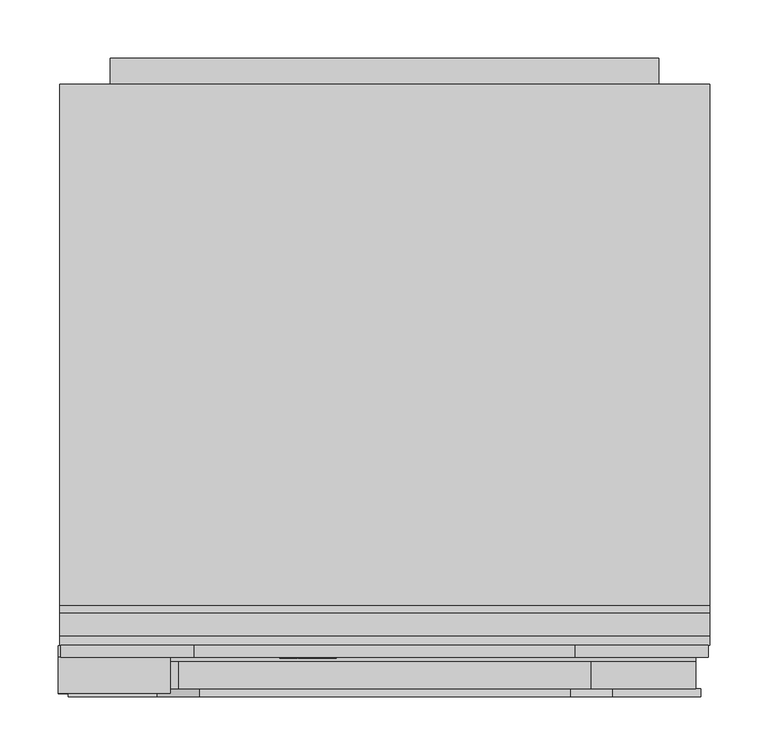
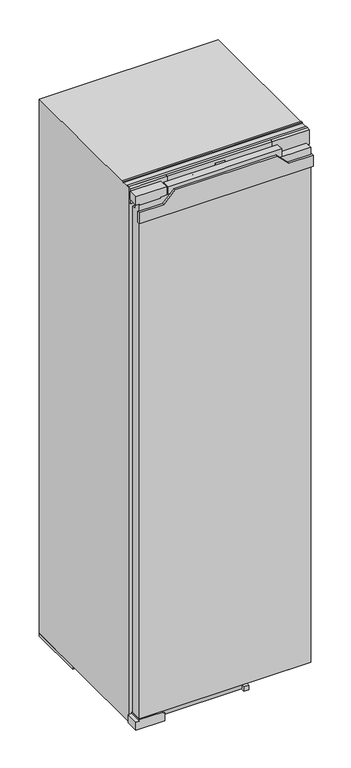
"""IFC4 building model written with IfcOpenShell, lengths in millimetres: proxy geometry, 13000760_CH_K7748C_LI : 36774808_CH_13000760_K7748C_LI."""

from ifc_helpers import new_model, si_unit, point, frame, frame_2d, origin, origin_with_axes, place, context, project, spatial, polyline, circle_curve, ellipse_curve, trimmed, segment, composite_curve, outline, extrude, faceted_brep, source, transform, mapped, element, save
from ifc_brep_helpers import plane_surface, cylinder_surface, revolved_surface, extruded_surface, advanced_brep


def specialty_equipment_6c33d652(model_context):
    return source(origin(), model_context, "Body", "SolidModel", [
        extrude(outline(polyline([(1762.0, -279.5), (1735.0, -279.5), (1735.0, -269.5), (1732.0, -269.5), (1732.0, -203.5), (1735.0, -203.5), (1735.0, -183.5), (1762.0, -183.5), (1762.0, -279.5)])), frame((0.0, 3.0, 0.0), z_axis=(0.0, 1.0, 0.0), x_axis=(0.0, 0.0, 1.0)), (0.0, 0.0, 1.0), 31.0),
        extrude(outline(polyline([(38.0, -195.5), (38.0, -268.5), (34.0, -268.5), (34.0, -279.5), (7.0, -279.5), (7.0, -189.5), (34.0, -189.5), (34.0, -195.5), (38.0, -195.5)])), frame((0.0, 3.0, 0.0), z_axis=(0.0, 1.0, 0.0), x_axis=(0.0, 0.0, 1.0)), (0.0, 0.0, 1.0), 41.0),
        extrude(outline(polyline([(7.0, 38.0), (7.0, 1732.0), (30.0, 1732.0), (30.0, 1703.0), (44.0, 1703.0), (44.0, 38.0), (7.0, 38.0)])), frame((-266.5, 0.0, 0.0), z_axis=(1.0, 0.0, 0.0), x_axis=(0.0, 1.0, 0.0)), (0.0, 0.0, 1.0), 533.0),
        extrude(outline(polyline([(176.5, 7.0), (-176.5, 7.0), (-176.5, 30.0), (176.5, 30.0), (176.5, 7.0)])), frame((0.0, 0.0, 1732.0), z_axis=(0.0, 0.0, 1.0), x_axis=(1.0, 0.0, 0.0)), (0.0, 0.0, 1.0), 26.0),
        extrude(outline(polyline([(1673.0, 271.0), (1709.0, 271.0), (1709.0, 195.0), (1745.0, 159.0), (1745.0, -159.0), (1709.0, -195.0), (1709.0, -271.0), (1673.0, -271.0), (1673.0, 271.0)])), frame((0.0, 0.0, 0.0), z_axis=(0.0, 1.0, 0.0), x_axis=(0.0, 0.0, 1.0)), (0.0, 0.0, 1.0), 7.0),
        extrude(outline(polyline([(59.0, 42.0), (74.0, 42.0), (74.0, 8.0), (59.0, 8.0), (59.0, 42.0)])), frame((0.0, 0.0, 14.0), z_axis=(0.0, 0.0, 1.0), x_axis=(1.0, 0.0, 0.0)), (0.0, 0.0, 1.0), 15.0),
        extrude(outline(composite_curve([segment(trimmed(circle_curve(frame_2d((65.5, 25.0)), 6.5), [point((72.0, 25.0))], [point((59.0, 25.0))], False, "CARTESIAN"), True, "CONTINUOUS"), segment(trimmed(circle_curve(frame_2d((65.5, 25.0)), 6.5), [point((59.0, 25.0))], [point((72.0, 25.0))], False, "CARTESIAN"), True, "CONTINUOUS")], self_intersect=False)), frame((0.0, 0.0, 29.0), z_axis=(0.0, 0.0, 1.0), x_axis=(1.0, 0.0, 0.0)), (0.0, 0.0, 1.0), 9.0),
        extrude(outline(composite_curve([segment(trimmed(circle_curve(frame_2d((25.0, 23.0)), 9.0), [point((25.0, 14.0))], [point((25.0, 32.0))], False, "CARTESIAN"), True, "CONTINUOUS"), segment(trimmed(circle_curve(frame_2d((25.0, 23.0)), 9.0), [point((25.0, 32.0))], [point((25.0, 14.0))], False, "CARTESIAN"), True, "CONTINUOUS")], self_intersect=False)), frame((-189.5, 0.0, 0.0), z_axis=(1.0, 0.0, 0.0), x_axis=(0.0, 1.0, 0.0)), (0.0, 0.0, 1.0), 248.5),
        advanced_brep(
        [(-46.64, 33.0, 1742.896), (-46.64, 33.0, 1743.704), (-41.288, 33.0, 1743.704), (-50.6, 33.0, 1743.704), (-48.4, 33.0, 1741.0), (-41.424, 33.0, 1742.896), (-43.84, 33.0, 1742.896), (-45.744, 33.0, 1742.0), (-46.64, 33.0, 1744.728), (-46.64, 33.0, 1745.6), (-45.272, 33.0, 1745.6), (-45.272, 33.0, 1744.728), (-46.64, 34.0, 1742.896), (-45.744, 34.0, 1742.0), (-43.84, 34.0, 1742.896), (-41.424, 34.0, 1742.896), (-48.4, 34.0, 1741.0), (-50.6, 34.0, 1743.704), (-41.288, 34.0, 1743.704), (-46.64, 34.0, 1743.704), (-46.64, 34.0, 1744.728), (-45.272, 34.0, 1744.728), (-45.272, 34.0, 1745.6), (-46.64, 34.0, 1745.6)],
        [
            (0, 1),
            (1, 2),
            (2, 3, ellipse_curve(frame((-45.944, 33.0, 1743.704), z_axis=(0.0, -1.0, 0.0), x_axis=(-1.0, 0.0, 0.0)), 4.656, 3.848)),
            (3, 4, circle_curve(frame((-47.5039564, 33.0, 1743.976), z_axis=(0.0, -1.0, 0.0), x_axis=(0.0, 0.0, -1.0)), 3.1079688)),
            (4, 5, circle_curve(frame((-46.0372064, 33.0, 1746.088), z_axis=(0.0, -1.0, 0.0), x_axis=(0.0, 0.0, -1.0)), 5.6098607)),
            (5, 6),
            (6, 7, circle_curve(frame((-45.3529412, 33.0, 1743.64), z_axis=(0.0, 1.0, 0.0), x_axis=(0.0, 0.0, -1.0)), 1.6859795)),
            (7, 0, circle_curve(frame((-45.744, 33.0, 1742.896), z_axis=(0.0, 1.0, 0.0), x_axis=(0.0, 0.0, -1.0)), 0.896)),
            (8, 9),
            (9, 10, circle_curve(frame((-45.956, 33.0, 1745.6), z_axis=(0.0, 1.0, 0.0), x_axis=(0.0, 0.0, -1.0)), 0.684)),
            (10, 11),
            (11, 8),
            (12, 13, circle_curve(frame((-45.744, 34.0, 1742.896), z_axis=(0.0, -1.0, 0.0), x_axis=(0.0, 0.0, -1.0)), 0.896)),
            (13, 14, circle_curve(frame((-45.3529412, 34.0, 1743.64), z_axis=(0.0, -1.0, 0.0), x_axis=(0.0, 0.0, -1.0)), 1.6859795)),
            (14, 15),
            (15, 16, circle_curve(frame((-46.0372064, 34.0, 1746.088), z_axis=(0.0, 1.0, 0.0), x_axis=(0.0, 0.0, -1.0)), 5.6098607)),
            (16, 17, circle_curve(frame((-47.5039564, 34.0, 1743.976), z_axis=(0.0, 1.0, 0.0), x_axis=(0.0, 0.0, -1.0)), 3.1079688)),
            (17, 18, ellipse_curve(frame((-45.944, 34.0, 1743.704), z_axis=(0.0, 1.0, 0.0), x_axis=(-1.0, 0.0, 0.0)), 4.656, 3.848)),
            (18, 19),
            (19, 12),
            (20, 21),
            (21, 22),
            (22, 23, circle_curve(frame((-45.956, 34.0, 1745.6), z_axis=(0.0, -1.0, 0.0), x_axis=(0.0, 0.0, -1.0)), 0.684)),
            (23, 20),
            (0, 12),
            (19, 1),
            (18, 2),
            (5, 15),
            (14, 6),
            (17, 3),
            (13, 7),
            (16, 4),
            (8, 20),
            (23, 9),
            (22, 10),
            (21, 11),
        ],
        [
            plane_surface(frame((-46.64, 33.0, 1743.704), z_axis=(0.0, -1.0, 0.0), x_axis=(0.0, 0.0, 1.0))),
            plane_surface(frame((-46.64, 34.0, 1743.704), z_axis=(0.0, 1.0, 0.0), x_axis=(0.0, 0.0, -1.0))),
            plane_surface(frame((-46.64, 33.0, 1742.896), z_axis=(1.0, 0.0, 0.0), x_axis=(0.0, 1.0, 0.0))),
            plane_surface(frame((-46.64, 33.0, 1743.704), z_axis=(0.0, 0.0, -1.0), x_axis=(0.0, 1.0, 0.0))),
            plane_surface(frame((-41.424, 33.0, 1742.896), z_axis=(0.0, 0.0, 1.0), x_axis=(0.0, 1.0, 0.0))),
            extruded_surface(trimmed(ellipse_curve(frame((-45.944, 35.0, 1743.704), z_axis=(0.0, -1.0, 0.0), x_axis=(-1.0, 0.0, 0.0)), 4.656, 3.848), [point((-41.288, 35.0, 1743.704))], [point((-50.6, 35.0, 1743.704))], True, "CARTESIAN"), (0.0, -1.0, 0.0), 1.0),
            revolved_surface(polyline([(-45.3529412, 34.0, 1741.9540205), (-45.3529412, 33.0, 1741.9540205)]), (-45.3529412, 34.0, 1743.64), (0.0, 1.0, 0.0)),
            revolved_surface(polyline([(-45.744, 34.0, 1742.0), (-45.744, 33.0, 1742.0)]), (-45.744, 34.0, 1742.896), (0.0, 1.0, 0.0)),
            cylinder_surface(frame((-47.5039564, 34.0, 1743.976), z_axis=(0.0, -1.0, 0.0), x_axis=(0.0, 0.0, -1.0)), 3.1079688),
            cylinder_surface(frame((-46.0372064, 34.0, 1746.088), z_axis=(0.0, -1.0, 0.0), x_axis=(0.0, 0.0, -1.0)), 5.6098607),
            plane_surface(frame((-46.64, 33.0, 1744.728), z_axis=(1.0, 0.0, 0.0), x_axis=(0.0, 1.0, 0.0))),
            revolved_surface(polyline([(-45.956, 34.0, 1744.916), (-45.956, 33.0, 1744.916)]), (-45.956, 34.0, 1745.6), (0.0, 1.0, 0.0)),
            plane_surface(frame((-45.272, 33.0, 1745.6), z_axis=(-1.0, 0.0, 0.0), x_axis=(0.0, 1.0, 0.0))),
            plane_surface(frame((-45.272, 33.0, 1744.728), z_axis=(0.0, 0.0, 1.0), x_axis=(0.0, 1.0, 0.0))),
        ],
        [
            (0, [[1, 2, 3, 4, 5, 6, 7, 8], [9, 10, 11, 12]]),
            (1, [[13, 14, 15, 16, 17, 18, 19, 20], [21, 22, 23, 24]]),
            (2, [[-1, 25, -20, 26]]),
            (3, [[-2, -26, -19, 27]]),
            (4, [[-6, 28, -15, 29]]),
            (5, [[-3, -27, -18, 30]]),
            (6, [[-7, -29, -14, 31]]),
            (7, [[-8, -31, -13, -25]]),
            (8, [[-4, -30, -17, 32]]),
            (9, [[-5, -32, -16, -28]]),
            (10, [[-9, 33, -24, 34]]),
            (11, [[-10, -34, -23, 35]]),
            (12, [[-11, -35, -22, 36]]),
            (13, [[-12, -36, -21, -33]]),
        ],
    ),
        advanced_brep(
        [(-63.336, 33.0, 1742.896), (-63.336, 33.0, 1743.704), (-57.984, 33.0, 1743.704), (-67.296, 33.0, 1743.704), (-65.096, 33.0, 1741.0), (-58.12, 33.0, 1742.896), (-60.536, 33.0, 1742.896), (-62.44, 33.0, 1742.0), (-63.336, 33.0, 1744.728), (-63.336, 33.0, 1745.6), (-61.968, 33.0, 1745.6), (-61.968, 33.0, 1744.728), (-63.336, 34.0, 1742.896), (-62.44, 34.0, 1742.0), (-60.536, 34.0, 1742.896), (-58.12, 34.0, 1742.896), (-65.096, 34.0, 1741.0), (-67.296, 34.0, 1743.704), (-57.984, 34.0, 1743.704), (-63.336, 34.0, 1743.704), (-63.336, 34.0, 1744.728), (-61.968, 34.0, 1744.728), (-61.968, 34.0, 1745.6), (-63.336, 34.0, 1745.6)],
        [
            (0, 1),
            (1, 2),
            (2, 3, ellipse_curve(frame((-62.64, 33.0, 1743.704), z_axis=(0.0, -1.0, 0.0), x_axis=(-1.0, 0.0, 0.0)), 4.656, 3.848)),
            (3, 4, circle_curve(frame((-64.1999564, 33.0, 1743.976), z_axis=(0.0, -1.0, 0.0), x_axis=(0.0, 0.0, -1.0)), 3.1079688)),
            (4, 5, circle_curve(frame((-62.7332064, 33.0, 1746.088), z_axis=(0.0, -1.0, 0.0), x_axis=(0.0, 0.0, -1.0)), 5.6098607)),
            (5, 6),
            (6, 7, circle_curve(frame((-62.0489412, 33.0, 1743.64), z_axis=(0.0, 1.0, 0.0), x_axis=(0.0, 0.0, -1.0)), 1.6859795)),
            (7, 0, circle_curve(frame((-62.44, 33.0, 1742.896), z_axis=(0.0, 1.0, 0.0), x_axis=(0.0, 0.0, -1.0)), 0.896)),
            (8, 9),
            (9, 10, circle_curve(frame((-62.652, 33.0, 1745.6), z_axis=(0.0, 1.0, 0.0), x_axis=(0.0, 0.0, -1.0)), 0.684)),
            (10, 11),
            (11, 8),
            (12, 13, circle_curve(frame((-62.44, 34.0, 1742.896), z_axis=(0.0, -1.0, 0.0), x_axis=(0.0, 0.0, -1.0)), 0.896)),
            (13, 14, circle_curve(frame((-62.0489412, 34.0, 1743.64), z_axis=(0.0, -1.0, 0.0), x_axis=(0.0, 0.0, -1.0)), 1.6859795)),
            (14, 15),
            (15, 16, circle_curve(frame((-62.7332064, 34.0, 1746.088), z_axis=(0.0, 1.0, 0.0), x_axis=(0.0, 0.0, -1.0)), 5.6098607)),
            (16, 17, circle_curve(frame((-64.1999564, 34.0, 1743.976), z_axis=(0.0, 1.0, 0.0), x_axis=(0.0, 0.0, -1.0)), 3.1079688)),
            (17, 18, ellipse_curve(frame((-62.64, 34.0, 1743.704), z_axis=(0.0, 1.0, 0.0), x_axis=(-1.0, 0.0, 0.0)), 4.656, 3.848)),
            (18, 19),
            (19, 12),
            (20, 21),
            (21, 22),
            (22, 23, circle_curve(frame((-62.652, 34.0, 1745.6), z_axis=(0.0, -1.0, 0.0), x_axis=(0.0, 0.0, -1.0)), 0.684)),
            (23, 20),
            (0, 12),
            (19, 1),
            (18, 2),
            (5, 15),
            (14, 6),
            (17, 3),
            (13, 7),
            (16, 4),
            (8, 20),
            (23, 9),
            (22, 10),
            (21, 11),
        ],
        [
            plane_surface(frame((-63.336, 33.0, 1743.704), z_axis=(0.0, -1.0, 0.0), x_axis=(0.0, 0.0, 1.0))),
            plane_surface(frame((-63.336, 34.0, 1743.704), z_axis=(0.0, 1.0, 0.0), x_axis=(0.0, 0.0, -1.0))),
            plane_surface(frame((-63.336, 33.0, 1742.896), z_axis=(1.0, 0.0, 0.0), x_axis=(0.0, 1.0, 0.0))),
            plane_surface(frame((-63.336, 33.0, 1743.704), z_axis=(0.0, 0.0, -1.0), x_axis=(0.0, 1.0, 0.0))),
            plane_surface(frame((-58.12, 33.0, 1742.896), z_axis=(0.0, 0.0, 1.0), x_axis=(0.0, 1.0, 0.0))),
            extruded_surface(trimmed(ellipse_curve(frame((-62.64, 35.0, 1743.704), z_axis=(0.0, -1.0, 0.0), x_axis=(-1.0, 0.0, 0.0)), 4.656, 3.848), [point((-57.984, 35.0, 1743.704))], [point((-67.296, 35.0, 1743.704))], True, "CARTESIAN"), (0.0, -1.0, 0.0), 1.0),
            revolved_surface(polyline([(-62.0489412, 34.0, 1741.9540205), (-62.0489412, 33.0, 1741.9540205)]), (-62.0489412, 34.0, 1743.64), (0.0, 1.0, 0.0)),
            revolved_surface(polyline([(-62.44, 34.0, 1742.0), (-62.44, 33.0, 1742.0)]), (-62.44, 34.0, 1742.896), (0.0, 1.0, 0.0)),
            cylinder_surface(frame((-64.1999564, 34.0, 1743.976), z_axis=(0.0, -1.0, 0.0), x_axis=(0.0, 0.0, -1.0)), 3.1079688),
            cylinder_surface(frame((-62.7332064, 34.0, 1746.088), z_axis=(0.0, -1.0, 0.0), x_axis=(0.0, 0.0, -1.0)), 5.6098607),
            plane_surface(frame((-63.336, 33.0, 1744.728), z_axis=(1.0, 0.0, 0.0), x_axis=(0.0, 1.0, 0.0))),
            revolved_surface(polyline([(-62.652, 34.0, 1744.916), (-62.652, 33.0, 1744.916)]), (-62.652, 34.0, 1745.6), (0.0, 1.0, 0.0)),
            plane_surface(frame((-61.968, 33.0, 1745.6), z_axis=(-1.0, 0.0, 0.0), x_axis=(0.0, 1.0, 0.0))),
            plane_surface(frame((-61.968, 33.0, 1744.728), z_axis=(0.0, 0.0, 1.0), x_axis=(0.0, 1.0, 0.0))),
        ],
        [
            (0, [[1, 2, 3, 4, 5, 6, 7, 8], [9, 10, 11, 12]]),
            (1, [[13, 14, 15, 16, 17, 18, 19, 20], [21, 22, 23, 24]]),
            (2, [[-1, 25, -20, 26]]),
            (3, [[-2, -26, -19, 27]]),
            (4, [[-6, 28, -15, 29]]),
            (5, [[-3, -27, -18, 30]]),
            (6, [[-7, -29, -14, 31]]),
            (7, [[-8, -31, -13, -25]]),
            (8, [[-4, -30, -17, 32]]),
            (9, [[-5, -32, -16, -28]]),
            (10, [[-9, 33, -24, 34]]),
            (11, [[-10, -34, -23, 35]]),
            (12, [[-11, -35, -22, 36]]),
            (13, [[-12, -36, -21, -33]]),
        ],
    ),
        extrude(outline(polyline([(1748.528, -72.08), (1747.232, -71.472), (1748.496, -68.76), (1749.792, -69.36), (1748.528, -72.08)])), frame((0.0, 33.0, 0.0), z_axis=(0.0, 1.0, 0.0), x_axis=(0.0, 0.0, 1.0)), (0.0, 0.0, 1.0), 1.0),
        extrude(outline(polyline([(1747.056, -74.056), (1745.624, -74.056), (1745.624, -73.104), (1742.344, -73.104), (1742.344, -74.056), (1741.0, -74.056), (1741.0, -67.744), (1742.344, -67.744), (1742.344, -68.672), (1747.056, -68.672), (1747.056, -74.056)])), frame((0.0, 33.0, 0.0), z_axis=(0.0, 1.0, 0.0), x_axis=(0.0, 0.0, 1.0)), (0.0, 0.0, 1.0), 1.0),
        extrude(outline(polyline([(1747.696, -57.536), (1747.696, -56.576), (1742.344, -56.576), (1742.344, -57.536), (1741.0, -57.536), (1741.0, -51.048), (1742.344, -51.048), (1742.344, -52.032), (1749.0, -52.032), (1749.0, -57.536), (1747.696, -57.536)])), frame((0.0, 33.0, 0.0), z_axis=(0.0, 1.0, 0.0), x_axis=(0.0, 0.0, 1.0)), (0.0, 0.0, 1.0), 1.0),
        extrude(outline(polyline([(1747.696, -90.0), (1747.696, -89.032), (1742.344, -89.032), (1742.344, -90.0), (1741.0, -90.0), (1741.0, -86.48), (1742.344, -86.48), (1742.344, -87.44), (1745.7471247, -87.44), (1741.0, -83.864), (1745.8152223, -80.272), (1742.344, -80.272), (1742.344, -81.256), (1741.0, -81.256), (1741.0, -74.872), (1742.344, -74.872), (1742.344, -75.888), (1747.696, -75.888), (1747.696, -74.872), (1749.0, -74.872), (1749.0, -79.744), (1746.0, -82.08), (1749.0, -84.424), (1749.0, -90.0), (1747.696, -90.0)])), frame((0.0, 33.0, 0.0), z_axis=(0.0, 1.0, 0.0), x_axis=(0.0, 0.0, 1.0)), (0.0, 0.0, 1.0), 1.0),
        extrude(outline(polyline([(-15.0, 35.0), (15.0, 35.0), (15.0, 34.0), (-15.0, 34.0), (-15.0, 35.0)])), frame((0.0, 0.0, 1731.0), z_axis=(0.0, 0.0, 1.0), x_axis=(1.0, 0.0, 0.0)), (0.0, 0.0, 1.0), 30.0),
        extrude(outline(polyline([(-277.5, 44.0), (-163.5, 44.0), (-163.5, 34.0), (-277.5, 34.0), (-277.5, 44.0)])), frame((0.0, 0.0, 1721.0), z_axis=(0.0, 0.0, 1.0), x_axis=(1.0, 0.0, 0.0)), (0.0, 0.0, 1.0), 49.0),
        extrude(outline(polyline([(163.5, 44.0), (277.5, 44.0), (277.5, 34.0), (163.5, 34.0), (163.5, 44.0)])), frame((0.0, 0.0, 1721.0), z_axis=(0.0, 0.0, 1.0), x_axis=(1.0, 0.0, 0.0)), (0.0, 0.0, 1.0), 49.0),
        faceted_brep([(163.5, 34.0, 1770.0), (-163.5, 34.0, 1770.0), (-163.5, 34.0, 1721.0), (163.5, 34.0, 1721.0), (15.0, 34.0, 1761.0), (15.0, 34.0, 1731.0), (-15.0, 34.0, 1731.0), (-15.0, 34.0, 1761.0), (163.5, 44.0, 1770.0), (163.5, 44.0, 1721.0), (-163.5, 44.0, 1721.0), (-163.5, 44.0, 1770.0), (15.0, 35.0, 1761.0), (-15.0, 35.0, 1761.0), (-15.0, 35.0, 1731.0), (15.0, 35.0, 1731.0)], [[[0, 1, 2, 3], [4, 5, 6, 7]], [[8, 9, 10, 11]], [[0, 3, 9, 8]], [[3, 2, 10, 9]], [[2, 1, 11, 10]], [[1, 0, 8, 11]], [[12, 13, 14, 15]], [[12, 15, 5, 4]], [[15, 14, 6, 5]], [[14, 13, 7, 6]], [[13, 12, 4, 7]]]),
        faceted_brep([(278.5, 525.0, 1767.0), (-278.5, 525.0, 1767.0), (-278.5, 44.0, 1767.0), (278.5, 44.0, 1767.0), (278.5, 525.0, 10.0), (278.5, 44.0, 10.0), (-278.5, 44.0, 10.0), (-278.5, 525.0, 10.0), (233.5, 44.0, 62.0), (-233.5, 44.0, 62.0), (-233.5, 44.0, 570.0), (-233.5, 44.0, 1692.0), (233.5, 44.0, 1692.0), (233.5, 44.0, 570.0), (233.5, 487.0, 1692.0), (-233.5, 487.0, 1692.0), (-233.5, 487.0, 570.0), (-233.5, 487.0, 62.0), (233.5, 487.0, 62.0), (233.5, 487.0, 570.0)], [[[0, 1, 2, 3]], [[4, 5, 6, 7]], [[1, 0, 4, 7]], [[2, 1, 7, 6]], [[3, 2, 6, 5], [8, 9, 10, 11, 12, 13]], [[0, 3, 5, 4]], [[14, 15, 16, 17, 18, 19]], [[18, 8, 13, 12, 14, 19]], [[18, 17, 9, 8]], [[9, 17, 16, 15, 11, 10]], [[15, 14, 12, 11]]]),
        extrude(outline(polyline([(278.5, 52.0), (278.5, 44.0), (-278.5, 44.0), (-278.5, 52.0), (278.5, 52.0)])), frame((0.0, 0.0, 1767.0), z_axis=(0.0, 0.0, 1.0), x_axis=(1.0, 0.0, 0.0)), (0.0, 0.0, 1.0), 3.0),
        extrude(outline(polyline([(278.5, 78.0), (278.5, 72.0), (-278.5, 72.0), (-278.5, 78.0), (278.5, 78.0)])), frame((0.0, 0.0, 1767.0), z_axis=(0.0, 0.0, 1.0), x_axis=(1.0, 0.0, 0.0)), (0.0, 0.0, 1.0), 3.0),
        extrude(outline(polyline([(278.5, 525.0), (278.5, 345.0), (-278.5, 345.0), (-278.5, 525.0), (278.5, 525.0)])), origin_with_axes(), (0.0, 0.0, 1.0), 10.0),
        extrude(outline(composite_curve([segment(trimmed(circle_curve(frame_2d((228.0, 64.0)), 11.0), [point((239.0, 64.0))], [point((217.0, 64.0))], False, "CARTESIAN"), True, "CONTINUOUS"), segment(trimmed(circle_curve(frame_2d((228.0, 64.0)), 11.0), [point((217.0, 64.0))], [point((239.0, 64.0))], False, "CARTESIAN"), True, "CONTINUOUS")], self_intersect=False)), origin_with_axes(), (0.0, 0.0, 1.0), 10.0),
        extrude(outline(composite_curve([segment(trimmed(circle_curve(frame_2d((-228.0, 64.0)), 11.0), [point((-217.0, 64.0))], [point((-239.0, 64.0))], False, "CARTESIAN"), True, "CONTINUOUS"), segment(trimmed(circle_curve(frame_2d((-228.0, 64.0)), 11.0), [point((-239.0, 64.0))], [point((-217.0, 64.0))], False, "CARTESIAN"), True, "CONTINUOUS")], self_intersect=False)), origin_with_axes(), (0.0, 0.0, 1.0), 10.0),
        extrude(outline(polyline([(-233.5, 349.0), (-233.5, 487.0), (233.5, 487.0), (233.5, 349.0), (-233.5, 349.0)])), frame((0.0, 0.0, 62.0), z_axis=(0.0, 0.0, 1.0), x_axis=(1.0, 0.0, 0.0)), (0.0, 0.0, 1.0), 188.0),
        extrude(outline(polyline([(-233.5, 179.0), (-233.5, 487.0), (233.5, 487.0), (233.5, 179.0), (-233.5, 179.0)])), frame((0.0, 0.0, 1367.0), z_axis=(0.0, 0.0, 1.0), x_axis=(1.0, 0.0, 0.0)), (0.0, 0.0, 1.0), 325.0),
        extrude(outline(polyline([(-233.5, 44.0), (-233.5, 487.0), (233.5, 487.0), (233.5, 44.0), (-233.5, 44.0)])), frame((0.0, 0.0, 638.0), z_axis=(0.0, 0.0, 1.0), x_axis=(1.0, 0.0, 0.0)), (0.0, 0.0, 1.0), 3.0),
        extrude(outline(polyline([(-34.0, 44.0), (34.0, 44.0), (34.0, 35.0), (-34.0, 35.0), (-34.0, 44.0)])), frame((0.0, 0.0, 13.0), z_axis=(0.0, 0.0, 1.0), x_axis=(1.0, 0.0, 0.0)), (0.0, 0.0, 1.0), 19.0),
        advanced_brep(
        [(232.0, 525.0, 145.0), (217.0, 525.0, 145.0), (232.0, 546.5, 145.0), (217.0, 531.5, 145.0), (194.5, 546.5, 145.0), (194.5, 531.5, 145.0)],
        [
            (0, 1, circle_curve(frame((224.5, 525.0, 145.0), z_axis=(0.0, -1.0, 0.0), x_axis=(-1.0, 0.0, 0.0)), 7.5)),
            (1, 0, circle_curve(frame((224.5, 525.0, 145.0), z_axis=(0.0, -1.0, 0.0), x_axis=(-1.0, 0.0, 0.0)), 7.5)),
            (0, 2),
            (2, 3, ellipse_curve(frame((224.5, 539.0, 145.0), z_axis=(0.7071067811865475, -0.7071067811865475, 0.0), x_axis=(-0.7071067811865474, -0.7071067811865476, 0.0)), 10.6066017, 7.5)),
            (3, 1),
            (3, 2, ellipse_curve(frame((224.5, 539.0, 145.0), z_axis=(0.7071067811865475, -0.7071067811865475, 0.0), x_axis=(-0.7071067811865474, -0.7071067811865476, 0.0)), 10.6066017, 7.5)),
            (4, 5, circle_curve(frame((194.5, 539.0, 145.0), z_axis=(-1.0, 0.0, 0.0), x_axis=(0.0, -1.0, 0.0)), 7.5)),
            (5, 4, circle_curve(frame((194.5, 539.0, 145.0), z_axis=(-1.0, 0.0, 0.0), x_axis=(0.0, -1.0, 0.0)), 7.5)),
            (2, 4),
            (5, 3),
        ],
        [
            plane_surface(frame((224.5, 525.0, 145.0), z_axis=(0.0, -1.0, 0.0), x_axis=(0.0, 0.0, 1.0))),
            cylinder_surface(frame((224.5, 525.0, 145.0), z_axis=(0.0, -1.0, 0.0), x_axis=(-1.0, 0.0, 0.0)), 7.5),
            plane_surface(frame((194.5, 539.0, 145.0), z_axis=(-1.0, 0.0, 0.0), x_axis=(0.0, 0.0, 1.0))),
            cylinder_surface(frame((224.5, 539.0, 145.0), z_axis=(1.0, 0.0, 0.0), x_axis=(0.0, -1.0, 0.0)), 7.5),
        ],
        [
            (0, [[1, 2]]),
            (1, [[-1, 3, 4, 5]]),
            (1, [[-2, -5, 6, -3]]),
            (2, [[7, 8]]),
            (3, [[-4, 9, -8, 10]]),
            (3, [[-6, -10, -7, -9]]),
        ],
    ),
        extrude(outline(polyline([(538.651012, 148.8988246), (538.651012, 150.150839), (545.8850603, 150.150839), (545.8850603, 140.1043073), (538.5027529, 140.1043073), (538.5027529, 141.3585545), (544.6152499, 141.3585545), (544.6152499, 144.6556887), (538.967462, 144.6556887), (538.967462, 145.9162842), (544.6270824, 145.9162842), (544.6270824, 148.8988246), (538.651012, 148.8988246)])), frame((193.5, 0.0, 0.0), z_axis=(1.0, 0.0, 0.0), x_axis=(0.0, 1.0, 0.0)), (0.0, 0.0, 1.0), 1.0),
        extrude(outline(polyline([(536.624075, 150.150839), (536.624075, 140.1043073), (530.3334819, 140.1043073), (530.3334819, 141.3573374), (535.3334819, 141.3573374), (535.3334819, 150.150839), (536.624075, 150.150839)])), frame((193.5, 0.0, 0.0), z_axis=(1.0, 0.0, 0.0), x_axis=(0.0, 1.0, 0.0)), (0.0, 0.0, 1.0), 1.0),
        extrude(outline(polyline([(-144.9049535, 92.0), (-174.0, 92.0), (-194.5002931, 345.0), (-165.4052466, 345.0), (-144.9049535, 92.0)])), origin_with_axes(), (0.0, 0.0, 1.0), 10.0),
        extrude(outline(polyline([(147.7868487, 92.0), (165.4177409, 345.0), (194.4880722, 345.0), (176.8571801, 92.0), (147.7868487, 92.0)])), origin_with_axes(), (0.0, 0.0, 1.0), 10.0),
        extrude(outline(polyline([(1647.0, -235.0), (27.0, -235.0), (27.0, 235.0), (130.0, 235.0), (130.0, 170.0), (160.0, 170.0), (160.0, 235.0), (1647.0, 235.0), (1647.0, -235.0)])), frame((0.0, 525.0, 0.0), z_axis=(0.0, 1.0, 0.0), x_axis=(0.0, 0.0, 1.0)), (0.0, 0.0, 1.0), 22.0),
    ])


if __name__ == "__main__":
    model = new_model("IFC4")
    model_context = context("Model", 3, world=origin())
    ifc_project = project(units=[si_unit("LENGTHUNIT", "METRE", prefix="MILLI")], contexts=[model_context])
    site = spatial("IfcSite", under=ifc_project)
    building = spatial("IfcBuilding", under=site)
    placement = place(None, origin())
    specialty_equipment_shape = specialty_equipment_6c33d652(model_context)
    element("IfcBuildingElementProxy", 1, Name="13000760_CH_K7748C_LI : 36774808_CH_13000760_K7748C_LI", ObjectType="13000760_CH_K7748C_LI : 36774808_CH_13000760_K7748C_LI", at=placement, inside=building, context=model_context, shape_type="MappedRepresentation", body=[
        mapped(specialty_equipment_shape, transform((0.0, 0.0, 0.0), x_axis=(1.0, 0.0, 0.0), y_axis=(0.0, 1.0, 0.0), z_axis=(0.0, 0.0, 1.0))),
    ])
    save(model, "model.ifc")
